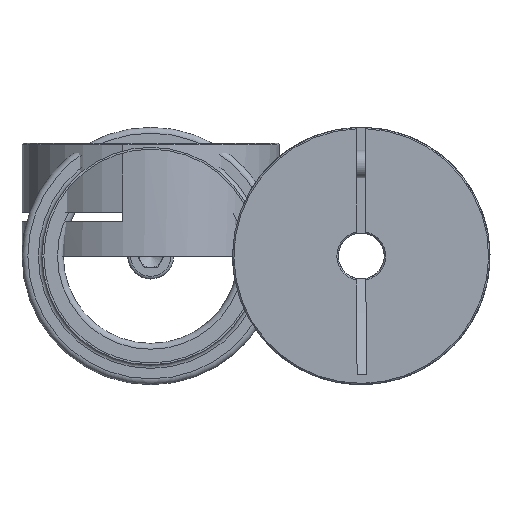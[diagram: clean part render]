
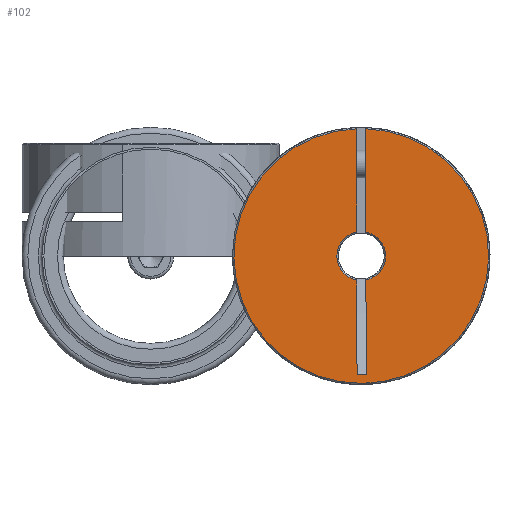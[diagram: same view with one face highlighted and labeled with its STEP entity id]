
A CAD part, left-side view. The second image highlights one B-rep face of the part: STEP entity #102.
In plain terms, the highlighted planar face has unit normal (-1, 0, 0) as drawn and (0, 0, 1) by its records, which use the part's own axes.
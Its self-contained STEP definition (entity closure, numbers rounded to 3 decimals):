
#102 = ADVANCED_FACE( 'NONE', ( #199 ), #200, .T. );
#199 = FACE_OUTER_BOUND( '', #298, .T. );
#200 = PLANE( '', #299 );
#298 = EDGE_LOOP( '', ( #537, #538, #539, #540, #541, #542, #543, #544 ) );
#299 = AXIS2_PLACEMENT_3D( '', #545, #546, #547 );
#537 = ORIENTED_EDGE( '', *, *, #821, .F. );
#538 = ORIENTED_EDGE( '', *, *, #809, .T. );
#539 = ORIENTED_EDGE( '', *, *, #863, .T. );
#540 = ORIENTED_EDGE( '', *, *, #849, .T. );
#541 = ORIENTED_EDGE( '', *, *, #860, .T. );
#542 = ORIENTED_EDGE( '', *, *, #864, .F. );
#543 = ORIENTED_EDGE( '', *, *, #865, .F. );
#544 = ORIENTED_EDGE( '', *, *, #866, .T. );
#545 = CARTESIAN_POINT( '', ( 0., 0., 24.5 ) );
#546 = DIRECTION( '', ( 0., 0., 1. ) );
#547 = DIRECTION( '', ( 1., 0., 0. ) );
#809 = EDGE_CURVE( 'NONE', #1097, #1095, #1098, .T. );
#821 = EDGE_CURVE( 'NONE', #1097, #1117, #1118, .F. );
#849 = EDGE_CURVE( 'NONE', #1162, #1160, #1163, .F. );
#860 = EDGE_CURVE( 'NONE', #1160, #1176, #1177, .T. );
#863 = EDGE_CURVE( 'NONE', #1095, #1162, #1180, .T. );
#864 = EDGE_CURVE( 'NONE', #1181, #1176, #1182, .F. );
#865 = EDGE_CURVE( 'NONE', #1183, #1181, #1184, .F. );
#866 = EDGE_CURVE( 'NONE', #1183, #1117, #1185, .F. );
#1095 = VERTEX_POINT( 'NONE', #1691 );
#1097 = VERTEX_POINT( 'NONE', #1696 );
#1098 = CIRCLE( '', #1697, 27.7 );
#1117 = VERTEX_POINT( 'NONE', #1785 );
#1118 = LINE( '', #1786, #1787 );
#1160 = VERTEX_POINT( 'NONE', #1842 );
#1162 = VERTEX_POINT( 'NONE', #1847 );
#1163 = CIRCLE( '', #1848, 5.3 );
#1176 = VERTEX_POINT( 'NONE', #1866 );
#1177 = LINE( '', #1867, #1868 );
#1180 = LINE( '', #1871, #1872 );
#1181 = VERTEX_POINT( 'NONE', #1873 );
#1182 = LINE( '', #1874, #1875 );
#1183 = VERTEX_POINT( 'NONE', #1876 );
#1184 = LINE( '', #1877, #1878 );
#1185 = CIRCLE( '', #1879, 5.3 );
#1691 = CARTESIAN_POINT( '', ( 27.682, -1., 24.5 ) );
#1696 = CARTESIAN_POINT( '', ( 27.682, 1., 24.5 ) );
#1697 = AXIS2_PLACEMENT_3D( '', #1988, #1989, #1990 );
#1785 = CARTESIAN_POINT( '', ( 5.205, 1., 24.5 ) );
#1786 = CARTESIAN_POINT( '', ( 17., 1., 24.5 ) );
#1787 = VECTOR( '', #1999, 1000. );
#1842 = CARTESIAN_POINT( '', ( -5.205, -1., 24.5 ) );
#1847 = CARTESIAN_POINT( '', ( 5.205, -1., 24.5 ) );
#1848 = AXIS2_PLACEMENT_3D( '', #2043, #2044, #2045 );
#1866 = CARTESIAN_POINT( '', ( -25.849, -1., 24.5 ) );
#1867 = CARTESIAN_POINT( '', ( 0., -1., 24.5 ) );
#1868 = VECTOR( '', #2054, 1000. );
#1871 = CARTESIAN_POINT( '', ( 0., -1., 24.5 ) );
#1872 = VECTOR( '', #2058, 1000. );
#1873 = CARTESIAN_POINT( '', ( -25.849, 1., 24.5 ) );
#1874 = CARTESIAN_POINT( '', ( -25.849, -1., 24.5 ) );
#1875 = VECTOR( '', #2059, 1000. );
#1876 = CARTESIAN_POINT( '', ( -5.205, 1., 24.5 ) );
#1877 = CARTESIAN_POINT( '', ( 17., 1., 24.5 ) );
#1878 = VECTOR( '', #2060, 1000. );
#1879 = AXIS2_PLACEMENT_3D( '', #2061, #2062, #2063 );
#1988 = CARTESIAN_POINT( '', ( 0., 0., 24.5 ) );
#1989 = DIRECTION( '', ( 0., 0., 1. ) );
#1990 = DIRECTION( '', ( 1., 0., 0. ) );
#1999 = DIRECTION( '', ( 1., 0., 0. ) );
#2043 = CARTESIAN_POINT( '', ( 0., 0., 24.5 ) );
#2044 = DIRECTION( '', ( 0., 0., 1. ) );
#2045 = DIRECTION( '', ( 1., 0., 0. ) );
#2054 = DIRECTION( '', ( -1., 0., 0. ) );
#2058 = DIRECTION( '', ( -1., 0., 0. ) );
#2059 = DIRECTION( '', ( 0., 1., 0. ) );
#2060 = DIRECTION( '', ( 1., 0., 0. ) );
#2061 = CARTESIAN_POINT( '', ( 0., 0., 24.5 ) );
#2062 = DIRECTION( '', ( 0., 0., 1. ) );
#2063 = DIRECTION( '', ( 1., 0., 0. ) );
